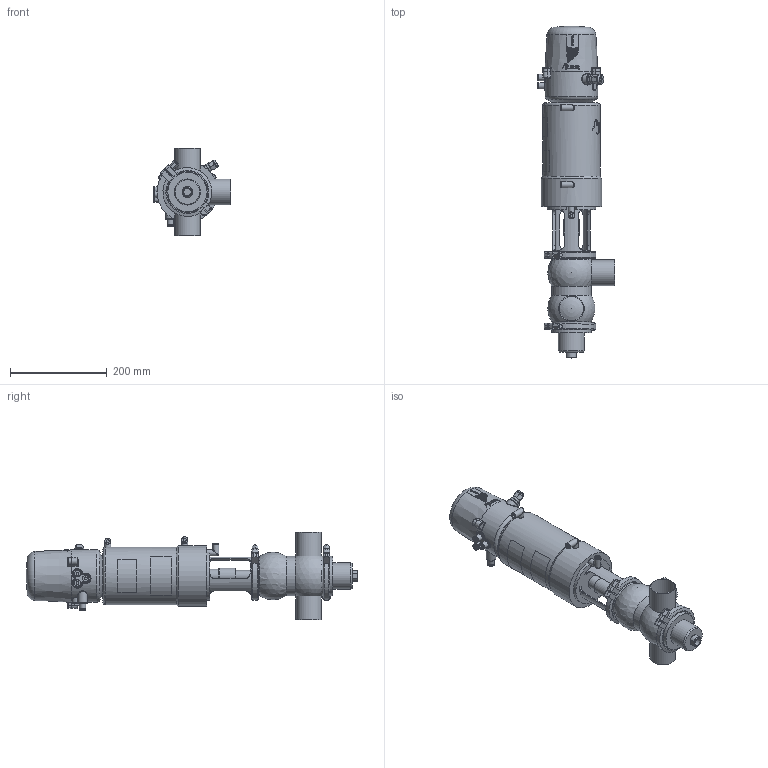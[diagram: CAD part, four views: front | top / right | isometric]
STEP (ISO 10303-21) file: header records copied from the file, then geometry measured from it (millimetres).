
FILE_DESCRIPTION (( 'STEP AP214' ), '1' );
FILE_NAME ('INNOVA P BB-90 W DIN 050 & C-TOP S_10.250.16.0013.STEP', '2024-08-09T11:56:42', ( '' ), ( '' ), 'SwSTEP 2.0', 'SolidWorks 2023', '' );
FILE_SCHEMA (( 'AUTOMOTIVE_DESIGN' ));
Length unit declared in the file: millimetre
Products named in the file (7): 10.240.15.0001_DN 050; 10.250.15.0003_DN 050; 10.250.15.0001_DIN 050; INNOVA P BB-90 W DIN 050 & C-TOP S_10.250.16.0013; 10.251.15.0005_DIN 050; 10.426.15.0001_C-TOP S - 3 EV; 10.250.15.0002_Type P T1
Assembly tree (7 placements, depth 2):
  INNOVA P BB-90 W DIN 050 & C-TOP S_10.250.16.0013
    10.250.15.0001_DIN 050
    10.250.15.0002_Type P T1
    10.426.15.0001_C-TOP S - 3 EV
    10.251.15.0005_DIN 050
    10.240.15.0001_DN 050  x2
    10.250.15.0003_DN 050
Bounding box: 161 x 686 x 180 mm (x, y, z)
Volume: 5281176.9 mm3; surface area: 408749.6 mm2
Topology: 7 solids, 7 shells, 1207 faces, 2906 edges, 1929 vertices
Faces by surface type: plane 414, cylinder 385, cone 203, bspline 163, torus 33, sphere 9
Full cylindrical faces by diameter (mm): 0.371 x17, 0.512 x16, 0.658 x16, 0.795 x16, 0.94 x15, 1.098 x15, 1.241 x13, 1.382 x13, 1.523 x11, 1.669 x10, 2.201 x1, 4.2 x2, 5 x1, 5.5 x2, 6 x4, 6.15 x3, 8 x5, 10 x1, 10.5 x3, 11 x4, 12.5 x9, 13 x6, 13.5 x2, 16 x1, 17 x3, 20 x2, 22 x2, 23 x1, 28 x1, 31.5 x1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
Entity records: 59143 total; most frequent: CARTESIAN_POINT 27701, ORIENTED_EDGE 4620, DIRECTION 3769, EDGE_CURVE 2310, VERTEX_POINT 1646, EDGE_LOOP 1628, AXIS2_PLACEMENT_3D 1551, FACE_OUTER_BOUND 1376
